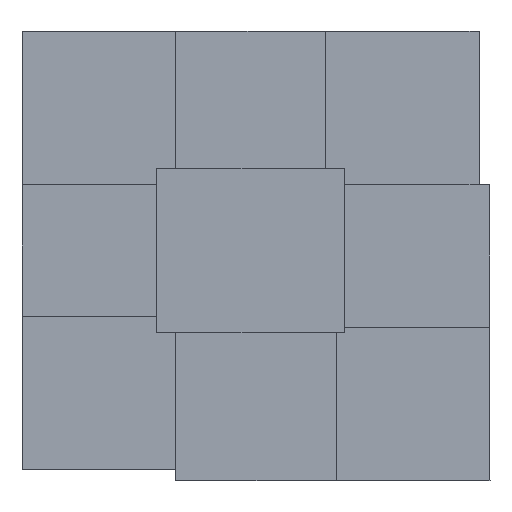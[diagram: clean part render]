
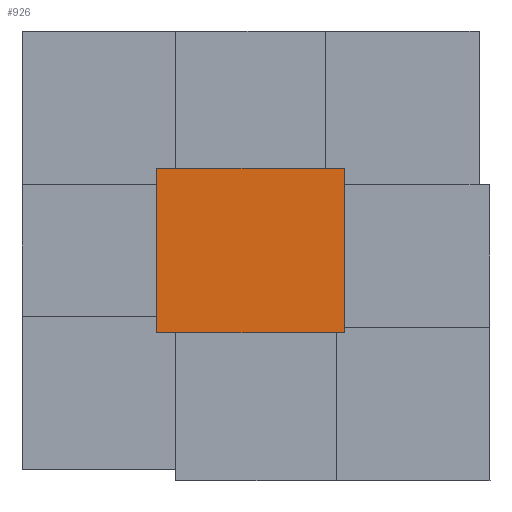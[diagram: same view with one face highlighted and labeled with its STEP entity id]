
A CAD part, left-side view. The second image highlights one B-rep face of the part: STEP entity #926.
In plain terms, the highlighted planar face has unit normal (-1, 0, 0).
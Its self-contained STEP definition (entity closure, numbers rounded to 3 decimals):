
#808=CARTESIAN_POINT('Line Origine',(0.,0.,53.5)) ;
#812=CARTESIAN_POINT('Vertex',(0.,0.,0.)) ;
#814=CARTESIAN_POINT('Vertex',(0.,0.,107.)) ;
#883=CARTESIAN_POINT('Vertex',(0.,122.,0.)) ;
#886=CARTESIAN_POINT('Line Origine',(0.,122.,53.5)) ;
#890=CARTESIAN_POINT('Vertex',(0.,122.,107.)) ;
#905=CARTESIAN_POINT('Axis2P3D Location',(0.,122.,0.)) ;
#910=CARTESIAN_POINT('Line Origine',(0.,61.,0.)) ;
#915=CARTESIAN_POINT('Line Origine',(0.,61.,107.)) ;
#809=DIRECTION('Vector Direction',(0.,0.,1.)) ;
#887=DIRECTION('Vector Direction',(0.,0.,1.)) ;
#906=DIRECTION('Axis2P3D Direction',(-1.,0.,0.)) ;
#907=DIRECTION('Axis2P3D XDirection',(0.,-1.,0.)) ;
#911=DIRECTION('Vector Direction',(0.,-1.,0.)) ;
#916=DIRECTION('Vector Direction',(0.,-1.,0.)) ;
#908=AXIS2_PLACEMENT_3D('Plane Axis2P3D',#905,#906,#907) ;
#921=ORIENTED_EDGE('',*,*,#892,.F.) ;
#922=ORIENTED_EDGE('',*,*,#914,.T.) ;
#923=ORIENTED_EDGE('',*,*,#816,.T.) ;
#924=ORIENTED_EDGE('',*,*,#919,.F.) ;
#810=VECTOR('Line Direction',#809,1.) ;
#888=VECTOR('Line Direction',#887,1.) ;
#912=VECTOR('Line Direction',#911,1.) ;
#917=VECTOR('Line Direction',#916,1.) ;
#926=ADVANCED_FACE('Body.2-molde-superior',(#925),#909,.T.) ;
#816=EDGE_CURVE('',#813,#815,#811,.T.) ;
#892=EDGE_CURVE('',#884,#891,#889,.T.) ;
#914=EDGE_CURVE('',#884,#813,#913,.T.) ;
#919=EDGE_CURVE('',#891,#815,#918,.T.) ;
#920=EDGE_LOOP('',(#921,#922,#923,#924)) ;
#925=FACE_OUTER_BOUND('',#920,.T.) ;
#811=LINE('Line',#808,#810) ;
#889=LINE('Line',#886,#888) ;
#913=LINE('Line',#910,#912) ;
#918=LINE('Line',#915,#917) ;
#909=PLANE('',#908) ;
#813=VERTEX_POINT('',#812) ;
#815=VERTEX_POINT('',#814) ;
#884=VERTEX_POINT('',#883) ;
#891=VERTEX_POINT('',#890) ;
